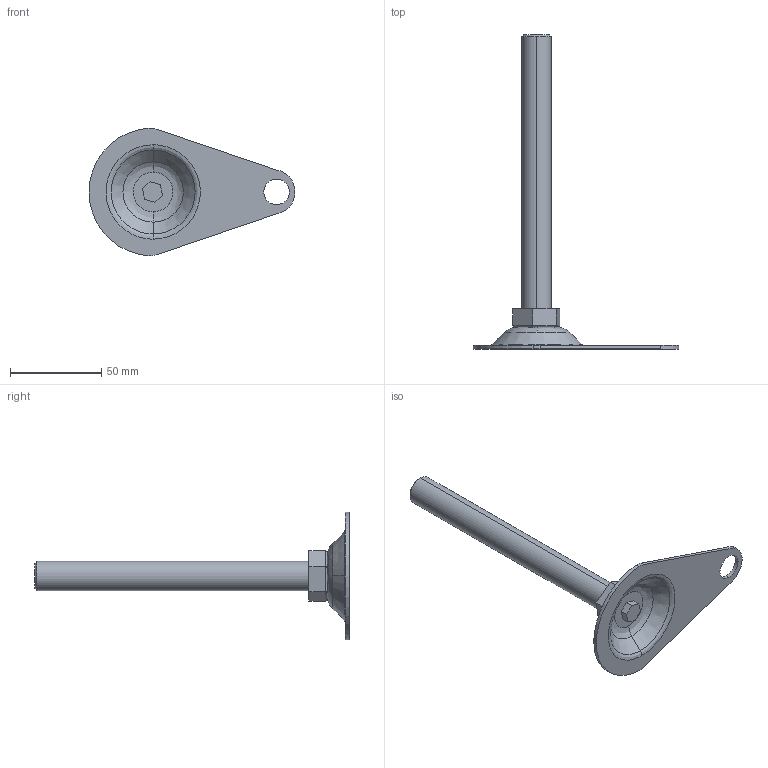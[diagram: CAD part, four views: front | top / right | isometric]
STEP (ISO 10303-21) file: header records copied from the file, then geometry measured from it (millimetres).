
FILE_DESCRIPTION (( 'STEP AP203' ), '1' );
FILE_NAME ('DY-11516150S.STEP', '2022-05-10T05:45:11', ( '' ), ( '' ), 'SwSTEP 2.0', 'SolidWorks 2017', '' );
FILE_SCHEMA (( 'CONFIG_CONTROL_DESIGN' ));
Length unit declared in the file: millimetre
Products named in the file (1): DY-11516150S
Bounding box: 112.77 x 172 x 69.89 mm (x, y, z)
Volume: 46558.7 mm3; surface area: 21800.4 mm2
Topology: 3 solids, 3 shells, 60 faces, 135 edges, 86 vertices
Faces by surface type: plane 25, cylinder 21, bspline 8, cone 6
Entity records: 2240 total; most frequent: CARTESIAN_POINT 836, DIRECTION 279, ORIENTED_EDGE 270, EDGE_CURVE 135, AXIS2_PLACEMENT_3D 105, VERTEX_POINT 86, LINE 69, VECTOR 69
